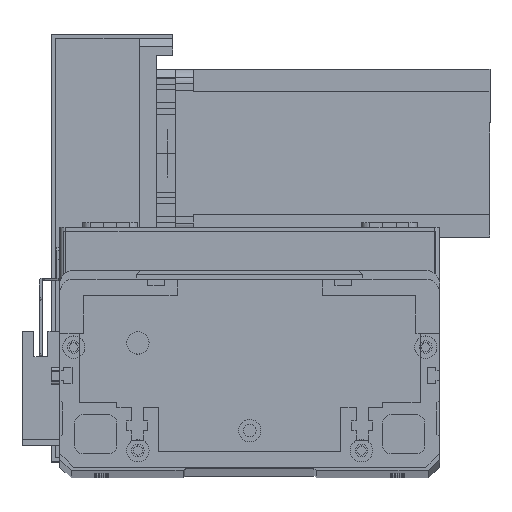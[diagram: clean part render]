
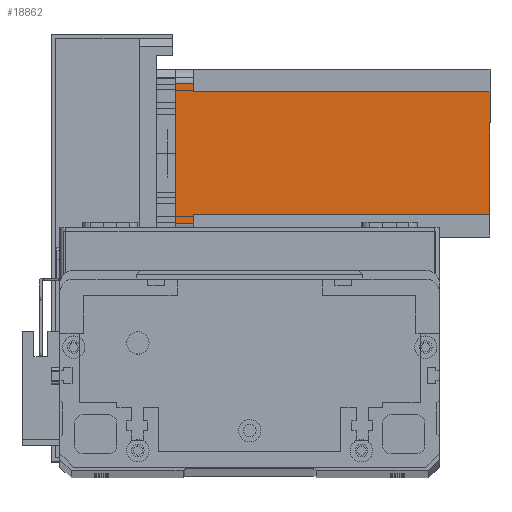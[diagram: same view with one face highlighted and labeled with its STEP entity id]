
A CAD part, top view. The second image highlights one B-rep face of the part: STEP entity #18862.
In plain terms, the highlighted planar face has unit normal (0, 0, 1) as drawn and (0, -1, 0) by its records, which use the part's own axes.
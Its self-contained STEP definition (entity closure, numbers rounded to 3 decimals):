
#4 = DIRECTION ( 'NONE',  ( 1., 0., 0. ) ) ;
#139 = CARTESIAN_POINT ( 'NONE',  ( 8., 0., -6.5 ) ) ;
#362 = LINE ( 'NONE', #1243, #6587 ) ;
#1243 = CARTESIAN_POINT ( 'NONE',  ( 52., 0., -112.5 ) ) ;
#1627 = FACE_OUTER_BOUND ( 'NONE', #16722, .T. ) ;
#1635 = ORIENTED_EDGE ( 'NONE', *, *, #12163, .T. ) ;
#2186 = VERTEX_POINT ( 'NONE', #14564 ) ;
#3082 = LINE ( 'NONE', #19473, #20682 ) ;
#3429 = EDGE_CURVE ( 'NONE', #29406, #10232, #11869, .T. ) ;
#3590 = CARTESIAN_POINT ( 'NONE',  ( 52., 0., -6.5 ) ) ;
#3732 = PLANE ( 'NONE',  #14771 ) ;
#3798 = VECTOR ( 'NONE', #15640, 1000. ) ;
#3916 = LINE ( 'NONE', #3590, #21491 ) ;
#4463 = VERTEX_POINT ( 'NONE', #12518 ) ;
#5570 = EDGE_CURVE ( 'NONE', #4463, #29406, #27368, .T. ) ;
#5790 = CARTESIAN_POINT ( 'NONE',  ( 55., 0., -6.5 ) ) ;
#5911 = DIRECTION ( 'NONE',  ( 1., 0., 0. ) ) ;
#6299 = DIRECTION ( 'NONE',  ( 1., 0., 0. ) ) ;
#6549 = CARTESIAN_POINT ( 'NONE',  ( 8., 0., -112.5 ) ) ;
#6587 = VECTOR ( 'NONE', #15059, 1000. ) ;
#7759 = ORIENTED_EDGE ( 'NONE', *, *, #18805, .T. ) ;
#8142 = CARTESIAN_POINT ( 'NONE',  ( 8., 0., -6.5 ) ) ;
#8408 = DIRECTION ( 'NONE',  ( 0., -1., 0. ) ) ;
#10213 = CARTESIAN_POINT ( 'NONE',  ( 5., 0., 0. ) ) ;
#10232 = VERTEX_POINT ( 'NONE', #26658 ) ;
#11020 = VERTEX_POINT ( 'NONE', #13065 ) ;
#11689 = ORIENTED_EDGE ( 'NONE', *, *, #21495, .F. ) ;
#11869 = LINE ( 'NONE', #8142, #29198 ) ;
#12123 = DIRECTION ( 'NONE',  ( 0., 0., 1. ) ) ;
#12163 = EDGE_CURVE ( 'NONE', #2186, #16248, #3916, .T. ) ;
#12518 = CARTESIAN_POINT ( 'NONE',  ( 8., 0., -112.5 ) ) ;
#12716 = DIRECTION ( 'NONE',  ( 0., 0., -1. ) ) ;
#13065 = CARTESIAN_POINT ( 'NONE',  ( 55., 0., 0. ) ) ;
#13346 = VERTEX_POINT ( 'NONE', #10213 ) ;
#13598 = LINE ( 'NONE', #20009, #14285 ) ;
#13881 = CARTESIAN_POINT ( 'NONE',  ( 0., 0., 0. ) ) ;
#14070 = ORIENTED_EDGE ( 'NONE', *, *, #3429, .F. ) ;
#14285 = VECTOR ( 'NONE', #6299, 1000. ) ;
#14373 = ORIENTED_EDGE ( 'NONE', *, *, #27537, .T. ) ;
#14564 = CARTESIAN_POINT ( 'NONE',  ( 52., 0., -6.5 ) ) ;
#14771 = AXIS2_PLACEMENT_3D ( 'NONE', #26532, #8408, #24387 ) ;
#15059 = DIRECTION ( 'NONE',  ( 0., 0., -1. ) ) ;
#15458 = EDGE_CURVE ( 'NONE', #13346, #11020, #22432, .T. ) ;
#15640 = DIRECTION ( 'NONE',  ( 0., 0., 1. ) ) ;
#16248 = VERTEX_POINT ( 'NONE', #5790 ) ;
#16722 = EDGE_LOOP ( 'NONE', ( #1635, #17700, #17168, #7759, #14070, #24550, #14373, #11689 ) ) ;
#17049 = VECTOR ( 'NONE', #4, 1000. ) ;
#17168 = ORIENTED_EDGE ( 'NONE', *, *, #15458, .F. ) ;
#17700 = ORIENTED_EDGE ( 'NONE', *, *, #27894, .T. ) ;
#18471 = CARTESIAN_POINT ( 'NONE',  ( 52., 0., -112.5 ) ) ;
#18805 = EDGE_CURVE ( 'NONE', #13346, #10232, #3082, .T. ) ;
#18862 = ADVANCED_FACE ( 'NONE', ( #1627 ), #3732, .T. ) ;
#19473 = CARTESIAN_POINT ( 'NONE',  ( 5., 0., -112.5 ) ) ;
#20009 = CARTESIAN_POINT ( 'NONE',  ( 0., 0., -112.5 ) ) ;
#20682 = VECTOR ( 'NONE', #12716, 1000. ) ;
#21491 = VECTOR ( 'NONE', #5911, 1000. ) ;
#21495 = EDGE_CURVE ( 'NONE', #2186, #29363, #362, .T. ) ;
#21722 = DIRECTION ( 'NONE',  ( -1., 0., 0. ) ) ;
#22432 = LINE ( 'NONE', #13881, #17049 ) ;
#22491 = VECTOR ( 'NONE', #12123, 1000. ) ;
#23580 = CARTESIAN_POINT ( 'NONE',  ( 55., 0., -112.5 ) ) ;
#24387 = DIRECTION ( 'NONE',  ( 0., 0., -1. ) ) ;
#24550 = ORIENTED_EDGE ( 'NONE', *, *, #5570, .F. ) ;
#26532 = CARTESIAN_POINT ( 'NONE',  ( 0., 0., -112.5 ) ) ;
#26658 = CARTESIAN_POINT ( 'NONE',  ( 5., 0., -6.5 ) ) ;
#27051 = LINE ( 'NONE', #23580, #22491 ) ;
#27368 = LINE ( 'NONE', #6549, #3798 ) ;
#27537 = EDGE_CURVE ( 'NONE', #4463, #29363, #13598, .T. ) ;
#27894 = EDGE_CURVE ( 'NONE', #16248, #11020, #27051, .T. ) ;
#29198 = VECTOR ( 'NONE', #21722, 1000. ) ;
#29363 = VERTEX_POINT ( 'NONE', #18471 ) ;
#29406 = VERTEX_POINT ( 'NONE', #139 ) ;
